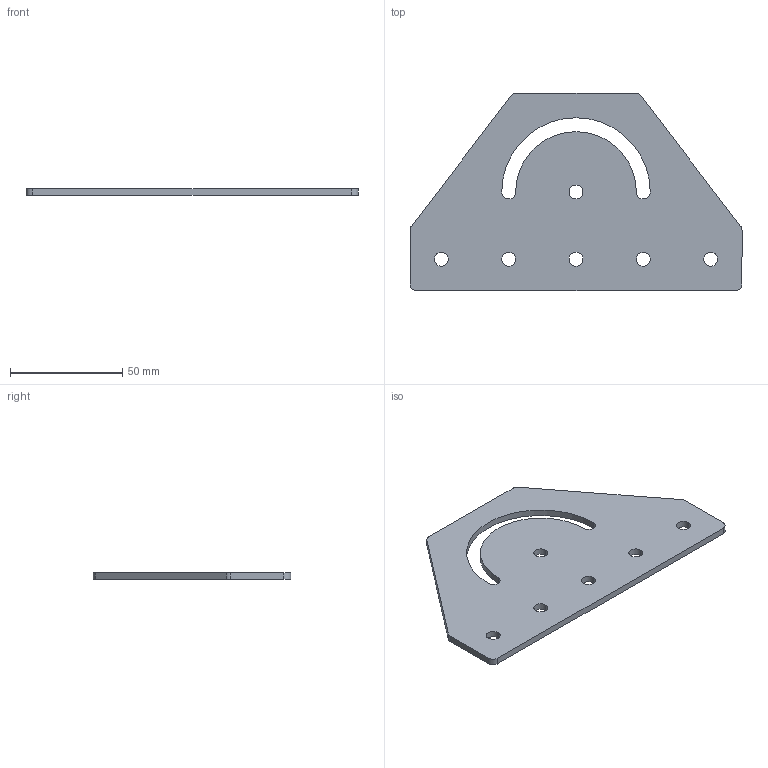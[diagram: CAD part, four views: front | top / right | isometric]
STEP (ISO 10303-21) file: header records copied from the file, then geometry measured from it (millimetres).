
FILE_DESCRIPTION (( 'STEP AP214' ), '1' );
FILE_NAME ('deg180s30.STEP', '2018-03-07T09:28:04', ( '' ), ( '' ), 'SwSTEP 2.0', 'SolidWorks 2014', '' );
FILE_SCHEMA (( 'AUTOMOTIVE_DESIGN' ));
Length unit declared in the file: millimetre
Products named in the file (2): deg180s30
Bounding box: 148 x 88 x 3 mm (x, y, z)
Volume: 28390.8 mm3; surface area: 21126 mm2
Topology: 1 solids, 1 shells, 30 faces, 84 edges, 56 vertices
Faces by surface type: cylinder 22, plane 8
Entity records: 1080 total; most frequent: DIRECTION 192, CARTESIAN_POINT 172, ORIENTED_EDGE 168, EDGE_CURVE 84, AXIS2_PLACEMENT_3D 76, VERTEX_POINT 56, EDGE_LOOP 44, CIRCLE 44
